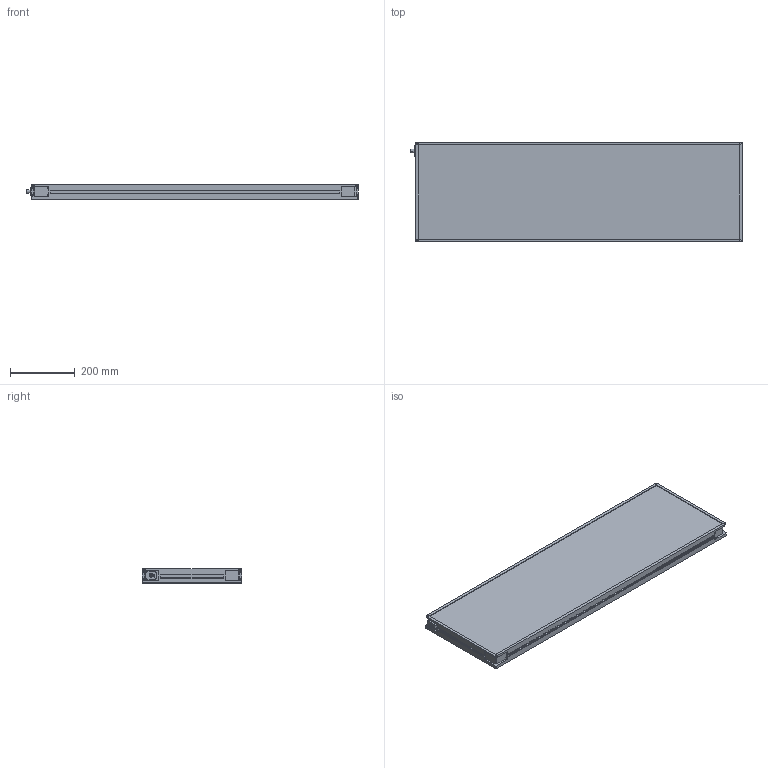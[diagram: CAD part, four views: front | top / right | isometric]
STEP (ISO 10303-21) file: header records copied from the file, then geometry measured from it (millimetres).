
FILE_DESCRIPTION (( 'STEP AP214' ), '1' );
FILE_NAME ('MBACK-xxxx-xxx-M1_CLIENT300x1000.STEP', '2022-03-31T15:59:45', ( '' ), ( '' ), 'SwSTEP 2.0', 'SolidWorks 2020', '' );
FILE_SCHEMA (( 'AUTOMOTIVE_DESIGN' ));
Length unit declared in the file: millimetre
Products named in the file (1): MBACK-xxxx-xxx-M1_CLIENT300x1000
Bounding box: 1025.9 x 308 x 45.5 mm (x, y, z)
Volume: 12873207.7 mm3; surface area: 795601.5 mm2
Topology: 1 solids, 1 shells, 442 faces, 1144 edges, 760 vertices
Faces by surface type: plane 249, cylinder 105, bspline 80, cone 8
Entity records: 17236 total; most frequent: CARTESIAN_POINT 6699, ORIENTED_EDGE 2288, DIRECTION 1936, EDGE_CURVE 1144, VERTEX_POINT 760, VECTOR 758, LINE 758, AXIS2_PLACEMENT_3D 589
